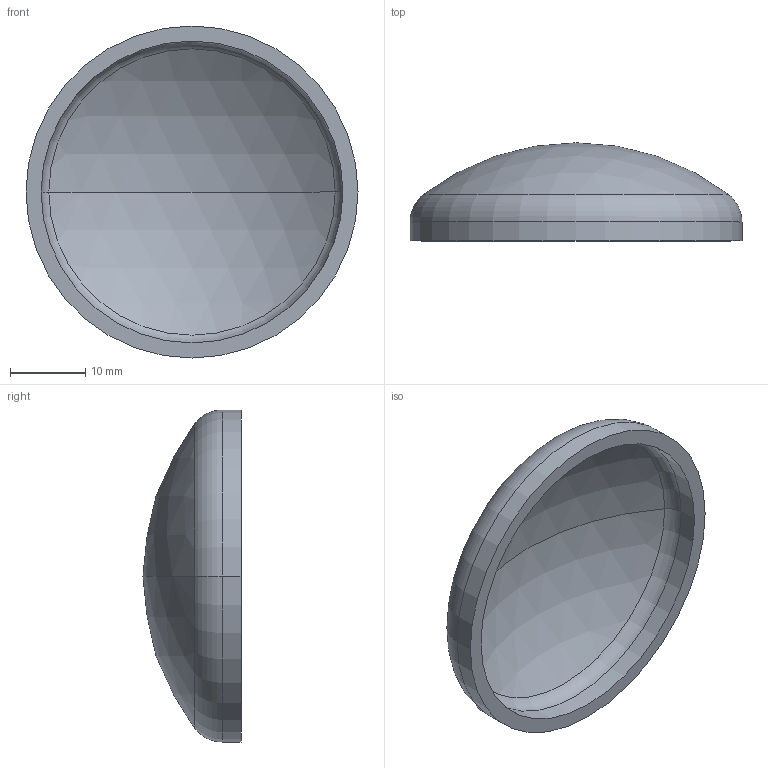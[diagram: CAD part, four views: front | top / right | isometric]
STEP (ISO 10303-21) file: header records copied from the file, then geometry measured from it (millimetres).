
FILE_DESCRIPTION (( 'STEP AP203' ), '1' );
FILE_NAME ('3D_R365_44x2_173373220.STEP', '2024-07-16T07:04:42', ( '' ), ( '' ), 'SwSTEP 2.0', 'SolidWorks 2024', '' );
FILE_SCHEMA (( 'CONFIG_CONTROL_DESIGN' ));
Length unit declared in the file: millimetre
Products named in the file (1): 3D_R365_44x2_173373220
Bounding box: 44 x 13 x 44 mm (x, y, z)
Volume: 4203.1 mm3; surface area: 4475.3 mm2
Topology: 1 solids, 1 shells, 13 faces, 24 edges, 14 vertices
Faces by surface type: sphere 4, torus 4, cylinder 4, plane 1
Entity records: 407 total; most frequent: DIRECTION 72, CARTESIAN_POINT 52, ORIENTED_EDGE 48, AXIS2_PLACEMENT_3D 34, EDGE_CURVE 24, CIRCLE 20, VERTEX_POINT 14, EDGE_LOOP 14
